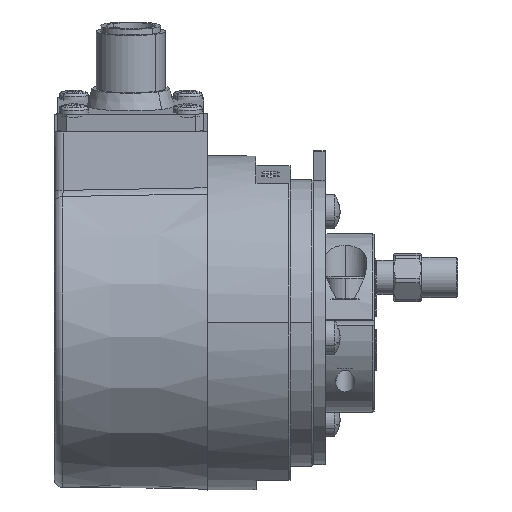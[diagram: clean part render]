
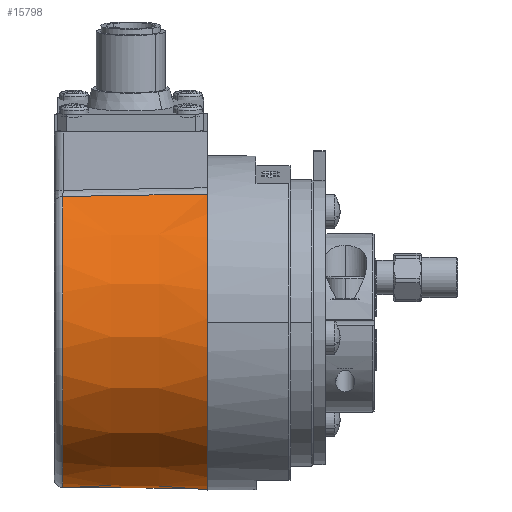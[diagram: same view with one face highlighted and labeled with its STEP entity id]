
A CAD part, top view. The second image highlights one B-rep face of the part: STEP entity #15798.
In plain terms, the highlighted conical face has half-angle 0.75 degrees and reference radius 29 mm.
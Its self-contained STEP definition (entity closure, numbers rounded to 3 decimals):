
#403 = CARTESIAN_POINT ( 'NONE',  ( -3.498, 22.169, 18.472 ) ) ;
#408 = CARTESIAN_POINT ( 'NONE',  ( -10.838, 22.04, 18.476 ) ) ;
#409 = CARTESIAN_POINT ( 'NONE',  ( -7.498, 22.099, 18.474 ) ) ;
#642 = CARTESIAN_POINT ( 'NONE',  ( -17.52, 21.923, 18.479 ) ) ;
#643 = CARTESIAN_POINT ( 'NONE',  ( -14.179, 21.982, 18.477 ) ) ;
#792 = CARTESIAN_POINT ( 'NONE',  ( -17.52, 21.923, 18.479 ) ) ;
#871 = CARTESIAN_POINT ( 'NONE',  ( 0.501, 22.238, 18.47 ) ) ;
#872 = CARTESIAN_POINT ( 'NONE',  ( 4.5, 22.308, 18.469 ) ) ;
#873 = CARTESIAN_POINT ( 'NONE',  ( 5.5, 22.325, 18.468 ) ) ;
#874 = CARTESIAN_POINT ( 'NONE',  ( 6.5, 22.343, 18.468 ) ) ;
#875 = CARTESIAN_POINT ( 'NONE',  ( 7.5, 22.36, 18.467 ) ) ;
#878 = B_SPLINE_CURVE_WITH_KNOTS ( 'NONE', 3,
 ( #875, #874, #873, #872, #871, #403, #409, #408, #643, #642 ),
 .UNSPECIFIED., .F., .F.,
 ( 4, 3, 3, 4 ),
 ( 0., 0.003, 0.015, 0.025 ),
 .UNSPECIFIED. ) ;
#6756 = LINE ( 'NONE', #6802, #6801 ) ;
#6784 = CARTESIAN_POINT ( 'NONE',  ( -17.52, -28.459, -3.494 ) ) ;
#6790 = CARTESIAN_POINT ( 'NONE',  ( 7.5, -28.784, -3.534 ) ) ;
#6800 = DIRECTION ( 'NONE',  ( 1., -0.013, -0.002 ) ) ;
#6801 = VECTOR ( 'NONE', #6800, 1000. ) ;
#6802 = CARTESIAN_POINT ( 'NONE',  ( 7.5, -28.784, -3.534 ) ) ;
#6860 = DIRECTION ( 'NONE',  ( 0., 0.993, 0.122 ) ) ;
#6861 = DIRECTION ( 'NONE',  ( 1., 0., 0. ) ) ;
#6862 = CARTESIAN_POINT ( 'NONE',  ( -17.52, 0., 0. ) ) ;
#6863 = AXIS2_PLACEMENT_3D ( 'NONE', #6862, #6861, #6860 ) ;
#6864 = CIRCLE ( 'NONE', #6863, 28.672 ) ;
#7020 = FACE_OUTER_BOUND ( 'NONE', #15795, .T. ) ;
#7021 = CARTESIAN_POINT ( 'NONE',  ( 7.5, 22.36, 18.467 ) ) ;
#7052 = DIRECTION ( 'NONE',  ( 0., 0.993, 0.122 ) ) ;
#7053 = DIRECTION ( 'NONE',  ( -1., 0., 0. ) ) ;
#7054 = CARTESIAN_POINT ( 'NONE',  ( 7.5, 0., 0. ) ) ;
#7055 = AXIS2_PLACEMENT_3D ( 'NONE', #7054, #7053, #7052 ) ;
#7056 = CIRCLE ( 'NONE', #7055, 29. ) ;
#7061 = DIRECTION ( 'NONE',  ( 0., -0.993, -0.122 ) ) ;
#7062 = DIRECTION ( 'NONE',  ( 1., 0., 0. ) ) ;
#7063 = CARTESIAN_POINT ( 'NONE',  ( 7.5, 0., 0. ) ) ;
#7064 = AXIS2_PLACEMENT_3D ( 'NONE', #7063, #7062, #7061 ) ;
#7066 = CONICAL_SURFACE ( 'NONE', #7064, 29., 0.013 ) ;
#15693 = VERTEX_POINT ( 'NONE', #792 ) ;
#15726 = ORIENTED_EDGE ( 'NONE', *, *, #15729, .T. ) ;
#15729 = EDGE_CURVE ( 'NONE', #15797, #15693, #878, .T. ) ;
#15735 = EDGE_CURVE ( 'NONE', #15743, #15738, #6756, .T. ) ;
#15738 = VERTEX_POINT ( 'NONE', #6790 ) ;
#15743 = VERTEX_POINT ( 'NONE', #6784 ) ;
#15761 = EDGE_CURVE ( 'NONE', #15693, #15743, #6864, .T. ) ;
#15795 = EDGE_LOOP ( 'NONE', ( #15799, #15796, #15802, #15726 ) ) ;
#15796 = ORIENTED_EDGE ( 'NONE', *, *, #15735, .T. ) ;
#15797 = VERTEX_POINT ( 'NONE', #7021 ) ;
#15798 = ADVANCED_FACE ( 'NONE', ( #7020 ), #7066, .T. ) ;
#15799 = ORIENTED_EDGE ( 'NONE', *, *, #15761, .T. ) ;
#15802 = ORIENTED_EDGE ( 'NONE', *, *, #15803, .T. ) ;
#15803 = EDGE_CURVE ( 'NONE', #15738, #15797, #7056, .T. ) ;
